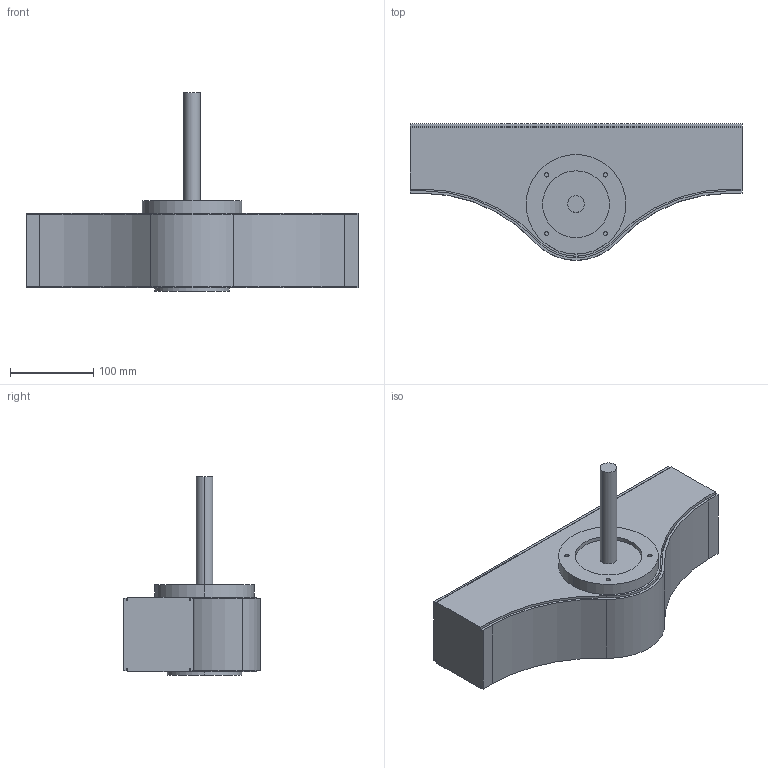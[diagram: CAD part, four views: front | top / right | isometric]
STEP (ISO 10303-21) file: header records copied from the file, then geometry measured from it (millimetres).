
FILE_DESCRIPTION (( 'STEP AP214' ), '1' );
FILE_NAME ('927819 CS090SL Center aandrijfsectie.STEP', '2014-03-20T14:41:28', ( 'Beheerder' ), ( '' ), 'SwSTEP 2.0', 'SolidWorks 2012', '' );
FILE_SCHEMA (( 'AUTOMOTIVE_DESIGN' ));
Length unit declared in the file: millimetre
Products named in the file (1): 927819 CS090SL Center aandrijfsectie
Bounding box: 400 x 164.8 x 239 mm (x, y, z)
Volume: 4314212.3 mm3; surface area: 211234 mm2
Topology: 1 solids, 1 shells, 66 faces, 168 edges, 112 vertices
Faces by surface type: plane 35, cylinder 31
Entity records: 2048 total; most frequent: DIRECTION 364, CARTESIAN_POINT 347, ORIENTED_EDGE 336, EDGE_CURVE 168, AXIS2_PLACEMENT_3D 129, VERTEX_POINT 112, VECTOR 106, LINE 106
